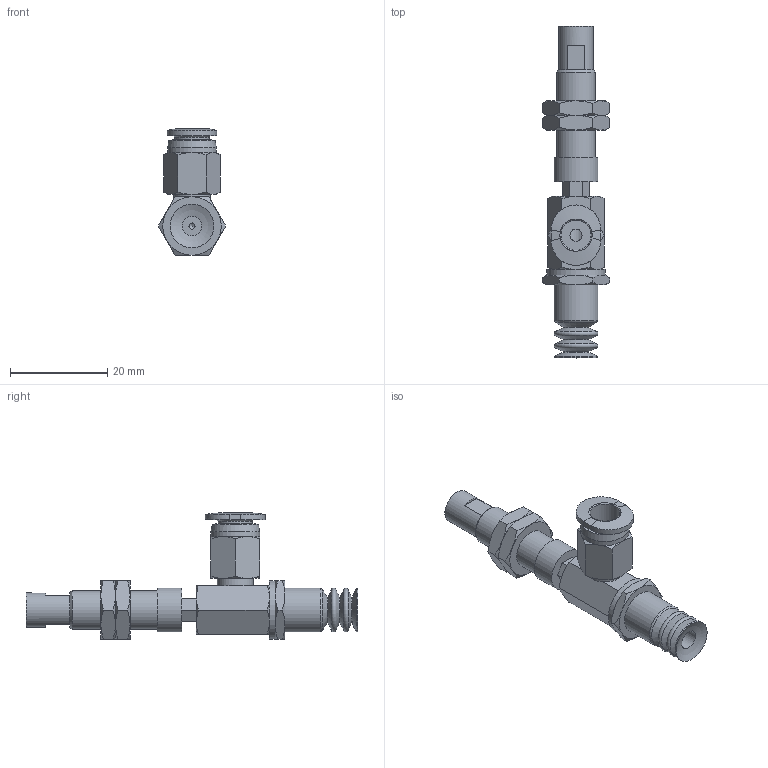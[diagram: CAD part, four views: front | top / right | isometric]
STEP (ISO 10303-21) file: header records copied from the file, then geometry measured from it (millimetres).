
FILE_DESCRIPTION(('STEP AP203'),'1');
FILE_NAME('-O.stp','2025-04-04T00:51:33',(' '),(' '),'Spatial InterOp 3D',' ',' ');
FILE_SCHEMA(('CONFIG_CONTROL_DESIGN'));
Length unit declared in the file: millimetre
Products named in the file (8): BNABPCYH-10-3-※-O; Adapter_napc-10-T; Connector_h-10-3; Nut napc_h-10-3; NAPCTH-10-3-FBODY; NAPCTH-10-3-MBODY; BPCG-10-※; PC-C_06-M5
Assembly tree (8 placements, depth 2):
  BNABPCYH-10-3-※-O
    Adapter_napc-10-T
    Connector_h-10-3
    Nut napc_h-10-3  x2
    NAPCTH-10-3-FBODY
    NAPCTH-10-3-MBODY
    BPCG-10-※
    PC-C_06-M5
Bounding box: 13.86 x 68.2 x 25.98 mm (x, y, z)
Volume: 4342.9 mm3; surface area: 5943 mm2
Topology: 7 solids, 10 shells, 220 faces, 461 edges, 275 vertices
Faces by surface type: plane 88, cone 85, cylinder 28, torus 10, bspline 4, revolution 3, sphere 2
Full cylindrical faces by diameter (mm): 1.25 x1, 4 x3, 4.134 x3, 5 x7, 7 x2, 7.188 x2, 7.4 x1, 8 x1, 8.2 x1, 9 x3, 10 x1, 12 x1
Entity records: 5872 total; most frequent: CARTESIAN_POINT 1678, DIRECTION 781, ORIENTED_EDGE 690, EDGE_CURVE 347, AXIS2_PLACEMENT_3D 339, EDGE_LOOP 284, VERTEX_POINT 242, FACE_OUTER_BOUND 174
